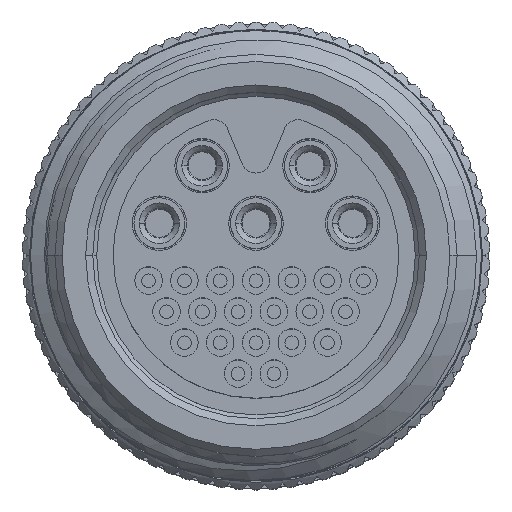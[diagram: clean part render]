
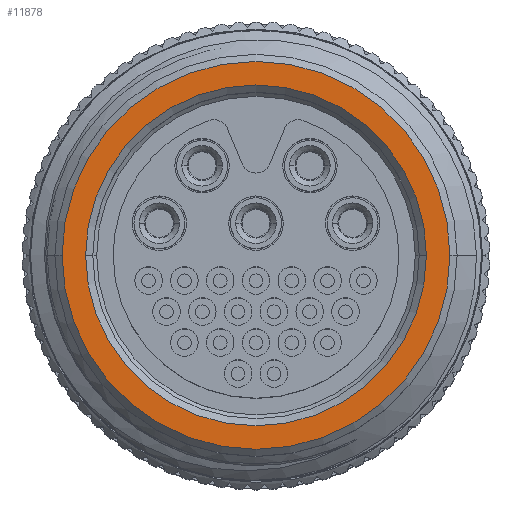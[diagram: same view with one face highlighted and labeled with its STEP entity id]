
A CAD part, top view. The second image highlights one B-rep face of the part: STEP entity #11878.
In plain terms, the highlighted planar face has unit normal (0, 0, 1).
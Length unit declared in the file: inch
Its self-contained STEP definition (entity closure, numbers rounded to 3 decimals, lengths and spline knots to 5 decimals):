
#84 = VERTEX_POINT ( 'NONE', #25716 ) ;
#583 = CARTESIAN_POINT ( 'NONE',  ( -0.27087, 0., 0.33 ) ) ;
#1164 = DIRECTION ( 'NONE',  ( -1., 0., 0. ) ) ;
#1227 = DIRECTION ( 'NONE',  ( -1., 0., 0. ) ) ;
#1309 = AXIS2_PLACEMENT_3D ( 'NONE', #9085, #21403, #1227 ) ;
#1509 = DIRECTION ( 'NONE',  ( -1., 0., 0. ) ) ;
#2302 = CIRCLE ( 'NONE', #12122, 0.27087 ) ;
#2629 = CARTESIAN_POINT ( 'NONE',  ( 0., 0., 0.33 ) ) ;
#2944 = AXIS2_PLACEMENT_3D ( 'NONE', #17770, #15616, #7538 ) ;
#3195 = EDGE_CURVE ( 'NONE', #10273, #19169, #21059, .T. ) ;
#3434 = EDGE_CURVE ( 'NONE', #84, #5232, #3619, .T. ) ;
#3619 = CIRCLE ( 'NONE', #2944, 0.238 ) ;
#4923 = DIRECTION ( 'NONE',  ( -1., 0., 0. ) ) ;
#5232 = VERTEX_POINT ( 'NONE', #17275 ) ;
#7210 = CARTESIAN_POINT ( 'NONE',  ( 0., 0., 0.33 ) ) ;
#7538 = DIRECTION ( 'NONE',  ( -1., 0., 0. ) ) ;
#7838 = ORIENTED_EDGE ( 'NONE', *, *, #13584, .T. ) ;
#9085 = CARTESIAN_POINT ( 'NONE',  ( 0., 0., 0.33 ) ) ;
#9180 = PLANE ( 'NONE',  #1309 ) ;
#10273 = VERTEX_POINT ( 'NONE', #14427 ) ;
#11878 = ADVANCED_FACE ( 'NONE', ( #12453, #23286 ), #9180, .F. ) ;
#12122 = AXIS2_PLACEMENT_3D ( 'NONE', #2629, #16719, #4923 ) ;
#12453 = FACE_BOUND ( 'NONE', #20113, .T. ) ;
#13101 = ORIENTED_EDGE ( 'NONE', *, *, #22033, .T. ) ;
#13584 = EDGE_CURVE ( 'NONE', #5232, #84, #13676, .T. ) ;
#13676 = CIRCLE ( 'NONE', #24255, 0.238 ) ;
#14427 = CARTESIAN_POINT ( 'NONE',  ( 0.27087, 0., 0.33 ) ) ;
#14817 = ORIENTED_EDGE ( 'NONE', *, *, #3195, .T. ) ;
#15616 = DIRECTION ( 'NONE',  ( 0., 0., -1. ) ) ;
#16719 = DIRECTION ( 'NONE',  ( 0., 0., 1. ) ) ;
#17275 = CARTESIAN_POINT ( 'NONE',  ( -0.238, 0., 0.33 ) ) ;
#17599 = CARTESIAN_POINT ( 'NONE',  ( 0., 0., 0.33 ) ) ;
#17770 = CARTESIAN_POINT ( 'NONE',  ( 0., 0., 0.33 ) ) ;
#19169 = VERTEX_POINT ( 'NONE', #583 ) ;
#19238 = AXIS2_PLACEMENT_3D ( 'NONE', #17599, #25799, #1509 ) ;
#20113 = EDGE_LOOP ( 'NONE', ( #21614, #7838 ) ) ;
#21059 = CIRCLE ( 'NONE', #19238, 0.27087 ) ;
#21148 = DIRECTION ( 'NONE',  ( 0., 0., -1. ) ) ;
#21361 = EDGE_LOOP ( 'NONE', ( #13101, #14817 ) ) ;
#21403 = DIRECTION ( 'NONE',  ( 0., 0., -1. ) ) ;
#21614 = ORIENTED_EDGE ( 'NONE', *, *, #3434, .T. ) ;
#22033 = EDGE_CURVE ( 'NONE', #19169, #10273, #2302, .T. ) ;
#23286 = FACE_OUTER_BOUND ( 'NONE', #21361, .T. ) ;
#24255 = AXIS2_PLACEMENT_3D ( 'NONE', #7210, #21148, #1164 ) ;
#25716 = CARTESIAN_POINT ( 'NONE',  ( 0.238, 0., 0.33 ) ) ;
#25799 = DIRECTION ( 'NONE',  ( 0., 0., 1. ) ) ;
